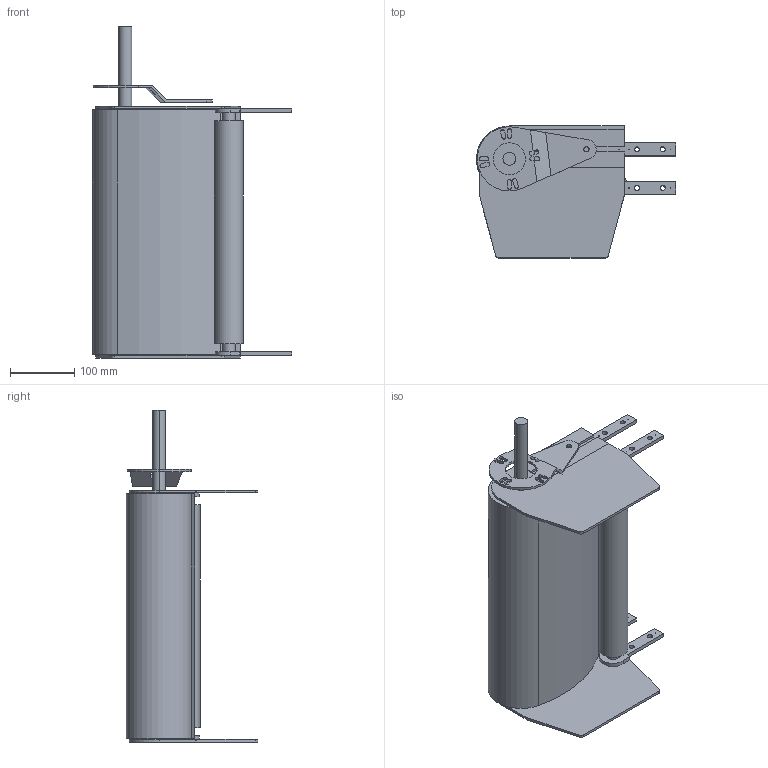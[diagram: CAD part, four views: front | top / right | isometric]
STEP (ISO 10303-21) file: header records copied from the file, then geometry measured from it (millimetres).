
FILE_DESCRIPTION (( 'STEP AP214' ), '1' );
FILE_NAME ('FS-390-MTS-100.ALU Left Drive section 20.STEP', '2017-02-08T09:35:11', ( '' ), ( '' ), 'SwSTEP 2.0', 'SolidWorks 2016', '' );
FILE_SCHEMA (( 'AUTOMOTIVE_DESIGN' ));
Length unit declared in the file: millimetre
Products named in the file (1): FS-390-MTS-100.ALU Left Drive section 20
Bounding box: 309.96 x 205 x 517 mm (x, y, z)
Volume: 3044932.5 mm3; surface area: 752319.8 mm2
Topology: 3 solids, 3 shells, 236 faces, 689 edges, 456 vertices
Faces by surface type: plane 131, cylinder 105
Entity records: 8039 total; most frequent: CARTESIAN_POINT 1394, ORIENTED_EDGE 1378, DIRECTION 1365, EDGE_CURVE 689, VECTOR 479, LINE 479, VERTEX_POINT 456, AXIS2_PLACEMENT_3D 443
